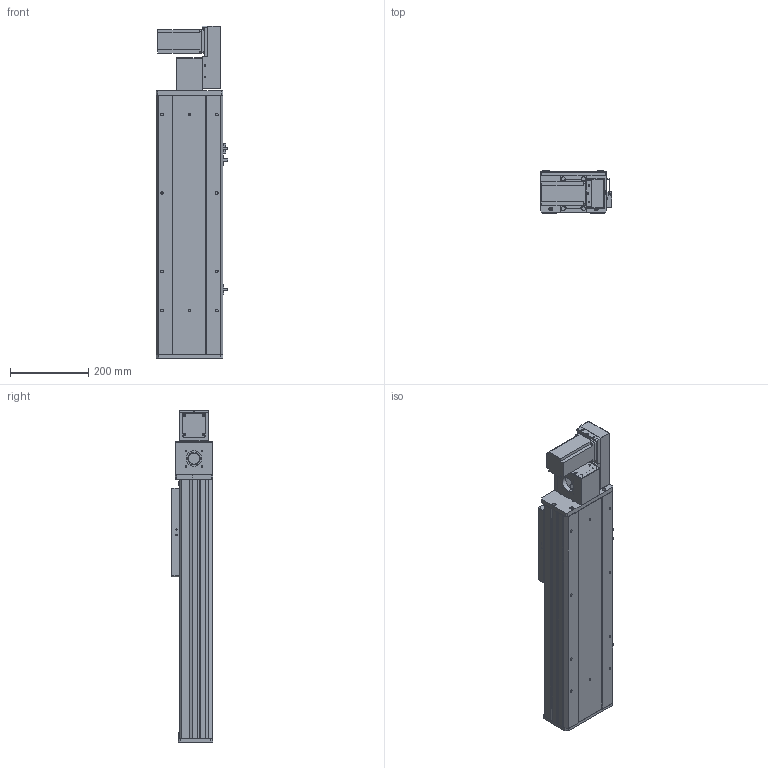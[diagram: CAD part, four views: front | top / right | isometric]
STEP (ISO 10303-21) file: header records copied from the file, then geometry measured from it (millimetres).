
FILE_DESCRIPTION (( 'STEP AP203' ), '1' );
FILE_NAME ('Y170CB-D105-S350-BR-P400W.STEP', '2020-02-19T08:40:59', ( '微软用户' ), ( '微软中国' ), 'SwSTEP 2.0', 'SolidWorks 2017', '' );
FILE_SCHEMA (( 'CONFIG_CONTROL_DESIGN' ));
Length unit declared in the file: millimetre
Products named in the file (17): 70CB-耜裔啣-; 70C--詩湍揤踡え-; 70CB--耜裔; 70C-雄赽釱-奻-; 0C--雄赽釱俋欶-170; san松下电机400不带刹车----; 70CB-詩湍--; Y100-135俋离換覜ん--; Y170CB-陔俋离換覜結え---; Y170CB-D105-S350-BR-P400W; --70CB --喘謫眊楊擘啣-; Y70俋欶BR----; 0B-萇儂楊擘啣; 17B-耜蚾蟀諉啣----; 70CB-掛极-; 70B喘謫眊----; B-源倛裔啣
Assembly tree (20 placements, depth 2):
  Y170CB-D105-S350-BR-P400W
    70B喘謫眊----
    B-源倛裔啣
    17B-耜蚾蟀諉啣----
    0B-萇儂楊擘啣
    san松下电机400不带刹车----
    Y70俋欶BR----
    70CB-掛极-
    --70CB --喘謫眊楊擘啣-
    70CB-耜裔啣-  x2
    70C--詩湍揤踡え-  x2
    70CB--耜裔
    70C-雄赽釱-奻-
    0C--雄赽釱俋欶-170
    70CB-詩湍--
    Y100-135俋离換覜ん--  x3
    Y170CB-陔俋离換覜結え---
Bounding box: 183.5 x 107 x 847 mm (x, y, z)
Volume: 3972798.9 mm3; surface area: 1401953.8 mm2
Topology: 20 solids, 20 shells, 969 faces, 2585 edges, 1714 vertices
Faces by surface type: cylinder 483, plane 462, cone 24
Entity records: 30583 total; most frequent: CARTESIAN_POINT 5601, DIRECTION 4972, ORIENTED_EDGE 4652, EDGE_CURVE 2326, AXIS2_PLACEMENT_3D 1805, VERTEX_POINT 1544, LINE 1362, VECTOR 1362
